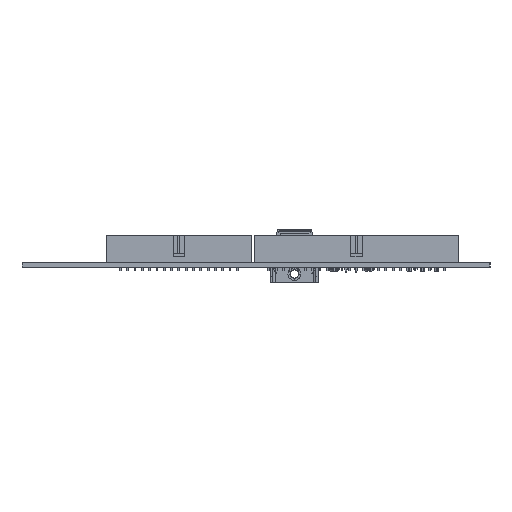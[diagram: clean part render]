
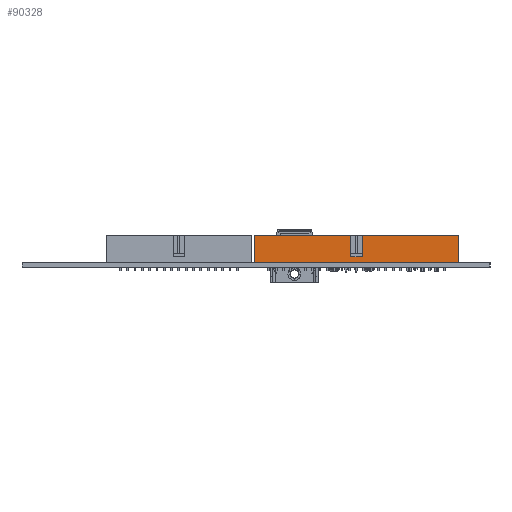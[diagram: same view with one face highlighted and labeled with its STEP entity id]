
A CAD part, left-side view. The second image highlights one B-rep face of the part: STEP entity #90328.
In plain terms, the highlighted planar face has unit normal (-1, 0, 0).
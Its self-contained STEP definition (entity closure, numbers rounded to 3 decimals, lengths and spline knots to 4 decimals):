
#11125=DIRECTION('',(0.,-1.,0.));
#11126=VECTOR('',#11125,2.79);
#11127=CARTESIAN_POINT('',(-2.82,0.02,0.062));
#11128=LINE('',#11127,#11126);
#21956=DIRECTION('',(0.,0.,1.));
#21957=VECTOR('',#21956,0.37);
#21958=CARTESIAN_POINT('',(-2.82,-2.77,0.062));
#21959=LINE('',#21958,#21957);
#21960=DIRECTION('',(0.,0.,1.));
#21961=VECTOR('',#21960,0.37);
#21962=CARTESIAN_POINT('',(-2.82,0.02,0.062));
#21963=LINE('',#21962,#21961);
#21964=DIRECTION('',(0.,0.,-1.));
#21965=VECTOR('',#21964,0.29);
#21966=CARTESIAN_POINT('',(-2.82,-1.295,0.432));
#21967=LINE('',#21966,#21965);
#21968=DIRECTION('',(0.,-1.,0.));
#21969=VECTOR('',#21968,0.16);
#21970=CARTESIAN_POINT('',(-2.82,-1.295,0.142));
#21971=LINE('',#21970,#21969);
#21972=DIRECTION('',(0.,0.,-1.));
#21973=VECTOR('',#21972,0.29);
#21974=CARTESIAN_POINT('',(-2.82,-1.455,0.432));
#21975=LINE('',#21974,#21973);
#21988=DIRECTION('',(0.,-1.,0.));
#21989=VECTOR('',#21988,1.315);
#21990=CARTESIAN_POINT('',(-2.82,0.02,0.432));
#21991=LINE('',#21990,#21989);
#22004=DIRECTION('',(0.,-1.,0.));
#22005=VECTOR('',#22004,1.315);
#22006=CARTESIAN_POINT('',(-2.82,-1.455,0.432));
#22007=LINE('',#22006,#22005);
#54709=CARTESIAN_POINT('',(-2.82,-2.77,0.432));
#54711=VERTEX_POINT('',#54709);
#54715=CARTESIAN_POINT('',(-2.82,0.02,0.432));
#54716=VERTEX_POINT('',#54715);
#54737=CARTESIAN_POINT('',(-2.82,-1.295,0.432));
#54739=VERTEX_POINT('',#54737);
#54741=CARTESIAN_POINT('',(-2.82,-1.455,0.432));
#54743=VERTEX_POINT('',#54741);
#54745=CARTESIAN_POINT('',(-2.82,-1.295,0.142));
#54746=VERTEX_POINT('',#54745);
#54747=CARTESIAN_POINT('',(-2.82,-1.455,0.142));
#54748=VERTEX_POINT('',#54747);
#57157=CARTESIAN_POINT('',(-2.82,-2.77,0.062));
#57159=VERTEX_POINT('',#57157);
#57163=CARTESIAN_POINT('',(-2.82,0.02,0.062));
#57164=VERTEX_POINT('',#57163);
#90307=CARTESIAN_POINT('',(-2.82,0.02,0.062));
#90308=DIRECTION('',(-1.,0.,0.));
#90309=DIRECTION('',(0.,-1.,0.));
#90310=AXIS2_PLACEMENT_3D('',#90307,#90308,#90309);
#90311=PLANE('',#90310);
#90312=ORIENTED_EDGE('',*,*,#72816,.F.);
#90314=ORIENTED_EDGE('',*,*,#90313,.T.);
#90316=ORIENTED_EDGE('',*,*,#90315,.T.);
#90318=ORIENTED_EDGE('',*,*,#90317,.T.);
#90320=ORIENTED_EDGE('',*,*,#90319,.T.);
#90322=ORIENTED_EDGE('',*,*,#90321,.F.);
#90324=ORIENTED_EDGE('',*,*,#90323,.T.);
#90325=ORIENTED_EDGE('',*,*,#90298,.F.);
#90326=EDGE_LOOP('',(#90312,#90314,#90316,#90318,#90320,#90322,#90324,#90325));
#90327=FACE_OUTER_BOUND('',#90326,.F.);
#90328=ADVANCED_FACE('',(#90327),#90311,.T.);
#72816=EDGE_CURVE('',#57164,#57159,#11128,.T.);
#90298=EDGE_CURVE('',#57159,#54711,#21959,.T.);
#90313=EDGE_CURVE('',#57164,#54716,#21963,.T.);
#90315=EDGE_CURVE('',#54716,#54739,#21991,.T.);
#90317=EDGE_CURVE('',#54739,#54746,#21967,.T.);
#90319=EDGE_CURVE('',#54746,#54748,#21971,.T.);
#90321=EDGE_CURVE('',#54743,#54748,#21975,.T.);
#90323=EDGE_CURVE('',#54743,#54711,#22007,.T.);
